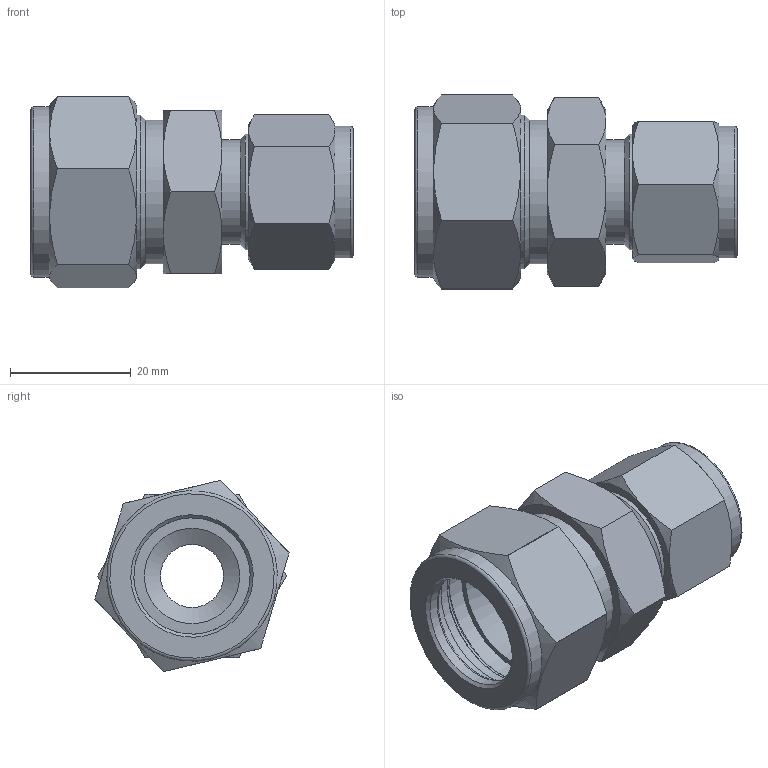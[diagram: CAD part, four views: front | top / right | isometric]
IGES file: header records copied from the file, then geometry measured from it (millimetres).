
Global section: file name: No Iges File Name specified; native system: Autodesk Inventor 2012; preprocessor: AutoDesk Inventor Iges Exporter R2012; author: 硅己绕,,1; organization: 1; date: 20150422.181203; units: millimetre
Bounding box: 53.28 x 32.1 x 31.64 mm (x, y, z)
Volume: 15215.5 mm3; surface area: 11518.5 mm2
Topology: 3 solids, 3 shells, 106 faces, 230 edges, 141 vertices
Faces by surface type: plane 35, cone 30, revolution 23, cylinder 14, torus 4
Full cylindrical faces by diameter (mm): 17.2 x1, 17.3 x1, 19.05 x1, 21.8 x1, 23.7 x1, 23.8 x1, 25.4 x1, 28.2 x1
